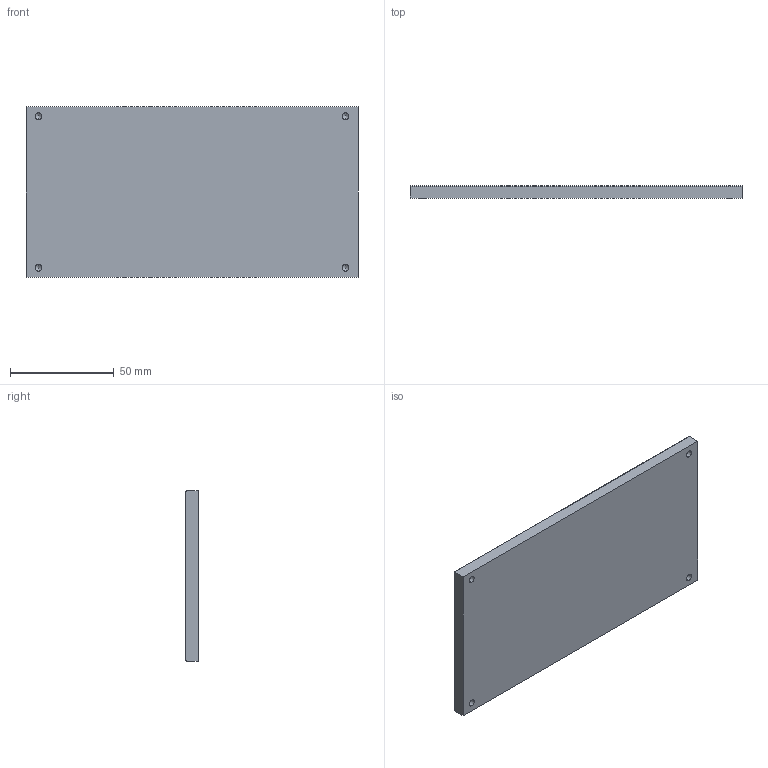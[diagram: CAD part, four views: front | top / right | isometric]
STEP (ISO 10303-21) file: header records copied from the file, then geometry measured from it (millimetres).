
FILE_DESCRIPTION (( 'STEP AP203' ), '1' );
FILE_NAME ('FB-002-02B菜啣160x82x6.STEP', '2025-03-19T06:17:33', ( 'Windows 蚚誧' ), ( 'Organization' ), 'SwSTEP 2.0', 'SolidWorks 2020', '' );
FILE_SCHEMA (( 'CONFIG_CONTROL_DESIGN' ));
Length unit declared in the file: millimetre
Products named in the file (1): FB-002-02B菜啣160x82x6
Bounding box: 160 x 6 x 82 mm (x, y, z)
Volume: 78531.5 mm3; surface area: 29315.8 mm2
Topology: 1 solids, 1 shells, 24 faces, 58 edges, 32 vertices
Faces by surface type: cylinder 10, cone 8, plane 6
Entity records: 719 total; most frequent: DIRECTION 120, CARTESIAN_POINT 107, ORIENTED_EDGE 100, EDGE_CURVE 50, AXIS2_PLACEMENT_3D 45, VERTEX_POINT 32, VECTOR 30, LINE 30
